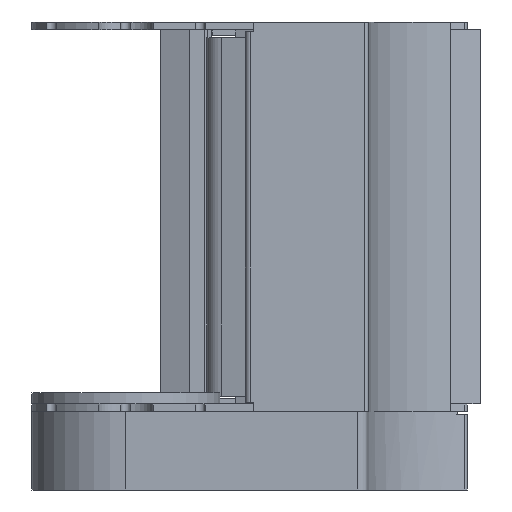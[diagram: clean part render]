
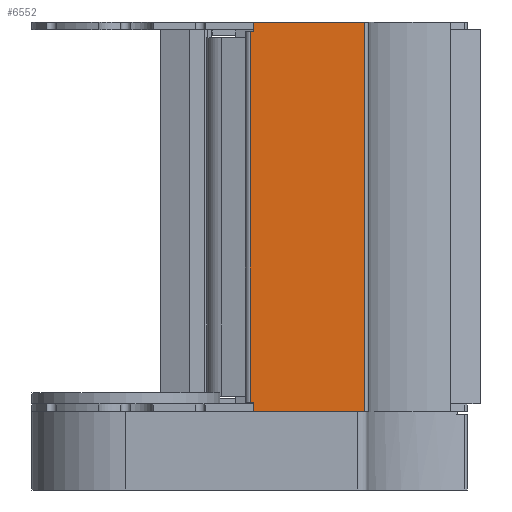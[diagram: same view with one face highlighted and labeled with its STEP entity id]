
A CAD part, front view. The second image highlights one B-rep face of the part: STEP entity #6552.
In plain terms, the highlighted planar face has unit normal (0, -1, 0).
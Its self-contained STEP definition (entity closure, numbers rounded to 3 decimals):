
#509 = LINE ( 'NONE', #4635, #4727 ) ;
#545 = ORIENTED_EDGE ( 'NONE', *, *, #7095, .F. ) ;
#641 = CARTESIAN_POINT ( 'NONE',  ( 37.279, -61., -124.5 ) ) ;
#766 = VECTOR ( 'NONE', #3102, 1000. ) ;
#965 = LINE ( 'NONE', #7892, #1763 ) ;
#1386 = LINE ( 'NONE', #7082, #1707 ) ;
#1570 = VERTEX_POINT ( 'NONE', #3666 ) ;
#1707 = VECTOR ( 'NONE', #5234, 1000. ) ;
#1763 = VECTOR ( 'NONE', #2010, 1000. ) ;
#1940 = EDGE_CURVE ( 'NONE', #9161, #1570, #1386, .T. ) ;
#1954 = EDGE_LOOP ( 'NONE', ( #3142, #6570, #6386, #5504, #4921, #4678, #545, #5059 ) ) ;
#2010 = DIRECTION ( 'NONE',  ( 0., 0., 1. ) ) ;
#2131 = CARTESIAN_POINT ( 'NONE',  ( 37.279, -61., 124.5 ) ) ;
#2405 = EDGE_CURVE ( 'NONE', #6321, #10070, #2835, .T. ) ;
#2741 = EDGE_CURVE ( 'NONE', #10070, #11884, #6712, .T. ) ;
#2801 = EDGE_CURVE ( 'NONE', #9161, #11993, #9039, .T. ) ;
#2835 = LINE ( 'NONE', #9892, #10888 ) ;
#3048 = DIRECTION ( 'NONE',  ( 0., 0., -1. ) ) ;
#3102 = DIRECTION ( 'NONE',  ( 1., 0., 0. ) ) ;
#3142 = ORIENTED_EDGE ( 'NONE', *, *, #1940, .T. ) ;
#3183 = VERTEX_POINT ( 'NONE', #7896 ) ;
#3666 = CARTESIAN_POINT ( 'NONE',  ( -33.721, -61., -124.5 ) ) ;
#4094 = CARTESIAN_POINT ( 'NONE',  ( -35.721, -61., -118.5 ) ) ;
#4154 = EDGE_CURVE ( 'NONE', #1570, #12244, #5582, .T. ) ;
#4635 = CARTESIAN_POINT ( 'NONE',  ( -35.721, -61., -305.911 ) ) ;
#4648 = DIRECTION ( 'NONE',  ( 1., 0., 0. ) ) ;
#4678 = ORIENTED_EDGE ( 'NONE', *, *, #12061, .F. ) ;
#4713 = CARTESIAN_POINT ( 'NONE',  ( -33.721, -61., 124.5 ) ) ;
#4727 = VECTOR ( 'NONE', #11555, 1000. ) ;
#4921 = ORIENTED_EDGE ( 'NONE', *, *, #2405, .F. ) ;
#5039 = CARTESIAN_POINT ( 'NONE',  ( 37.279, -61., -305.911 ) ) ;
#5059 = ORIENTED_EDGE ( 'NONE', *, *, #2801, .F. ) ;
#5203 = DIRECTION ( 'NONE',  ( 0., -1., 0. ) ) ;
#5234 = DIRECTION ( 'NONE',  ( 0., 0., -1. ) ) ;
#5380 = DIRECTION ( 'NONE',  ( -1., 0., 0. ) ) ;
#5504 = ORIENTED_EDGE ( 'NONE', *, *, #2741, .F. ) ;
#5582 = LINE ( 'NONE', #12094, #766 ) ;
#5911 = AXIS2_PLACEMENT_3D ( 'NONE', #5039, #5203, #3048 ) ;
#6121 = VECTOR ( 'NONE', #11200, 1000. ) ;
#6321 = VERTEX_POINT ( 'NONE', #7956 ) ;
#6386 = ORIENTED_EDGE ( 'NONE', *, *, #7501, .T. ) ;
#6394 = VECTOR ( 'NONE', #5380, 1000. ) ;
#6552 = ADVANCED_FACE ( 'NONE', ( #9853 ), #11126, .T. ) ;
#6570 = ORIENTED_EDGE ( 'NONE', *, *, #4154, .T. ) ;
#6712 = LINE ( 'NONE', #10572, #11178 ) ;
#7082 = CARTESIAN_POINT ( 'NONE',  ( -33.721, -61., -118.5 ) ) ;
#7095 = EDGE_CURVE ( 'NONE', #11993, #3183, #509, .T. ) ;
#7501 = EDGE_CURVE ( 'NONE', #12244, #11884, #965, .T. ) ;
#7525 = LINE ( 'NONE', #10145, #6121 ) ;
#7892 = CARTESIAN_POINT ( 'NONE',  ( 37.279, -61., -305.911 ) ) ;
#7896 = CARTESIAN_POINT ( 'NONE',  ( -35.721, -61., 118.5 ) ) ;
#7956 = CARTESIAN_POINT ( 'NONE',  ( -33.721, -61., 118.5 ) ) ;
#9039 = LINE ( 'NONE', #9294, #6394 ) ;
#9161 = VERTEX_POINT ( 'NONE', #9533 ) ;
#9294 = CARTESIAN_POINT ( 'NONE',  ( -33.721, -61., -118.5 ) ) ;
#9533 = CARTESIAN_POINT ( 'NONE',  ( -33.721, -61., -118.5 ) ) ;
#9853 = FACE_OUTER_BOUND ( 'NONE', #1954, .T. ) ;
#9892 = CARTESIAN_POINT ( 'NONE',  ( -33.721, -61., 118.5 ) ) ;
#10070 = VERTEX_POINT ( 'NONE', #4713 ) ;
#10145 = CARTESIAN_POINT ( 'NONE',  ( -35.721, -61., 118.5 ) ) ;
#10572 = CARTESIAN_POINT ( 'NONE',  ( 37.279, -61., 124.5 ) ) ;
#10830 = DIRECTION ( 'NONE',  ( 0., 0., 1. ) ) ;
#10888 = VECTOR ( 'NONE', #10830, 1000. ) ;
#11126 = PLANE ( 'NONE',  #5911 ) ;
#11178 = VECTOR ( 'NONE', #4648, 1000. ) ;
#11200 = DIRECTION ( 'NONE',  ( 1., 0., 0. ) ) ;
#11555 = DIRECTION ( 'NONE',  ( 0., 0., 1. ) ) ;
#11884 = VERTEX_POINT ( 'NONE', #2131 ) ;
#11993 = VERTEX_POINT ( 'NONE', #4094 ) ;
#12061 = EDGE_CURVE ( 'NONE', #3183, #6321, #7525, .T. ) ;
#12094 = CARTESIAN_POINT ( 'NONE',  ( 37.279, -61., -124.5 ) ) ;
#12244 = VERTEX_POINT ( 'NONE', #641 ) ;
